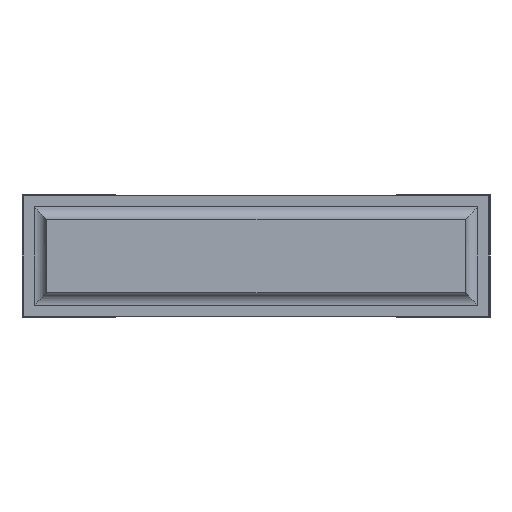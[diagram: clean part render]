
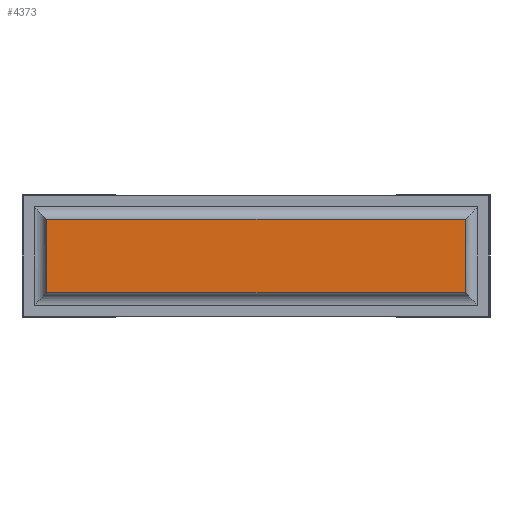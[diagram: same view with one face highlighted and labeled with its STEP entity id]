
A CAD part, front view. The second image highlights one B-rep face of the part: STEP entity #4373.
In plain terms, the highlighted planar face has unit normal (0, -1, 0).
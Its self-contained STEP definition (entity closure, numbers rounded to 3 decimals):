
#171=FACE_OUTER_BOUND('',#443,.T.);
#443=EDGE_LOOP('',(#2907,#2908,#2909,#2910));
#728=LINE('',#6241,#1300);
#732=LINE('',#6253,#1304);
#733=LINE('',#6255,#1305);
#734=LINE('',#6256,#1306);
#1300=VECTOR('',#5010,10.);
#1304=VECTOR('',#5022,10.);
#1305=VECTOR('',#5023,10.);
#1306=VECTOR('',#5024,10.);
#1871=VERTEX_POINT('',#6237);
#1873=VERTEX_POINT('',#6240);
#1877=VERTEX_POINT('',#6252);
#1878=VERTEX_POINT('',#6254);
#2272=EDGE_CURVE('',#1873,#1871,#728,.T.);
#2278=EDGE_CURVE('',#1877,#1873,#732,.T.);
#2279=EDGE_CURVE('',#1878,#1871,#733,.T.);
#2280=EDGE_CURVE('',#1877,#1878,#734,.T.);
#2907=ORIENTED_EDGE('',*,*,#2278,.T.);
#2908=ORIENTED_EDGE('',*,*,#2272,.T.);
#2909=ORIENTED_EDGE('',*,*,#2279,.F.);
#2910=ORIENTED_EDGE('',*,*,#2280,.F.);
#4156=PLANE('',#4681);
#4373=ADVANCED_FACE('',(#171),#4156,.T.);
#4681=AXIS2_PLACEMENT_3D('',#6251,#5020,#5021);
#5010=DIRECTION('',(0.,0.,-1.));
#5020=DIRECTION('center_axis',(0.,-1.,0.));
#5021=DIRECTION('ref_axis',(0.,0.,-1.));
#5022=DIRECTION('',(-1.,0.,0.));
#5023=DIRECTION('',(-1.,0.,0.));
#5024=DIRECTION('',(0.,0.,-1.));
#6237=CARTESIAN_POINT('',(0.1,0.,0.1));
#6240=CARTESIAN_POINT('',(0.1,0.,0.4));
#6241=CARTESIAN_POINT('',(0.1,0.,0.4));
#6251=CARTESIAN_POINT('Origin',(1.81,0.,0.25));
#6252=CARTESIAN_POINT('',(1.81,0.,0.4));
#6253=CARTESIAN_POINT('',(1.81,0.,0.4));
#6254=CARTESIAN_POINT('',(1.81,0.,0.1));
#6255=CARTESIAN_POINT('',(1.81,0.,0.1));
#6256=CARTESIAN_POINT('',(1.81,0.,0.4));
